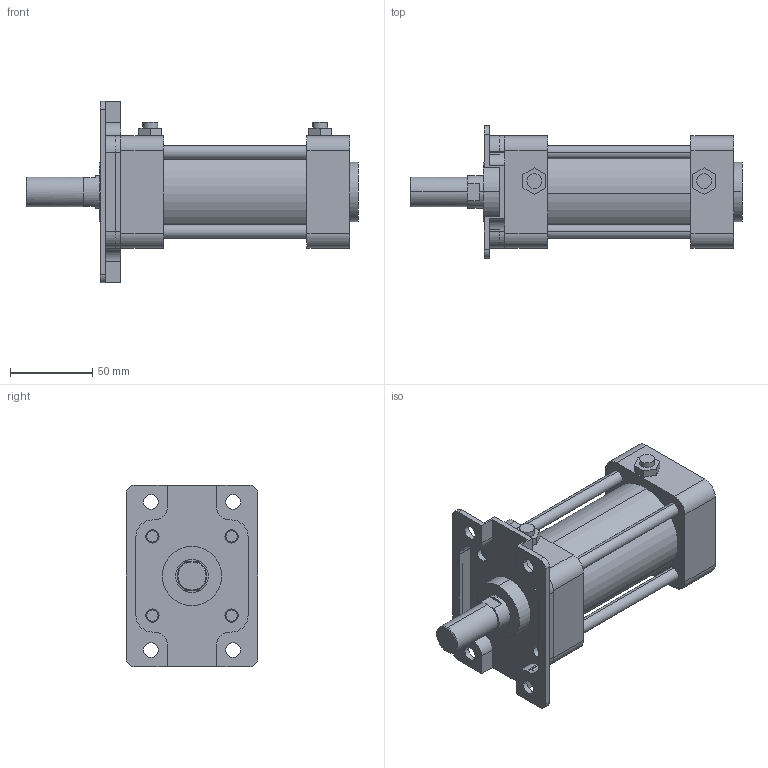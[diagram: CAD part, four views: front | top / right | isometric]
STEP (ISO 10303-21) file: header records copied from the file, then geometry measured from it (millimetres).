
FILE_DESCRIPTION (( 'STEP AP203' ), '1' );
FILE_NAME ('KG2-50-50-A.STEP', '2016-04-01T08:11:17', ( '' ), ( '' ), 'SwSTEP 2.0', 'SolidWorks 2014', '' );
FILE_SCHEMA (( 'CONFIG_CONTROL_DESIGN' ));
Length unit declared in the file: millimetre
Products named in the file (7): KG2-50-After; KG2-50-50-A; K-50-AB; KGLH2-50-50
Assembly tree (16 placements, depth 2):
  KG2-50-50-A
    KG2-50-After
    KGLH2-50-50
    (unnamed)
    (unnamed)  x4
    (unnamed)  x8
    K-50-AB
Bounding box: 201.5 x 80 x 110 mm (x, y, z)
Volume: 461181.9 mm3; surface area: 121026.7 mm2
Topology: 16 solids, 20 shells, 393 faces, 950 edges, 612 vertices
Faces by surface type: plane 171, cylinder 164, torus 32, cone 26
Entity records: 10415 total; most frequent: CARTESIAN_POINT 1886, DIRECTION 1642, ORIENTED_EDGE 1520, EDGE_CURVE 760, AXIS2_PLACEMENT_3D 602, VERTEX_POINT 502, LINE 438, VECTOR 438
